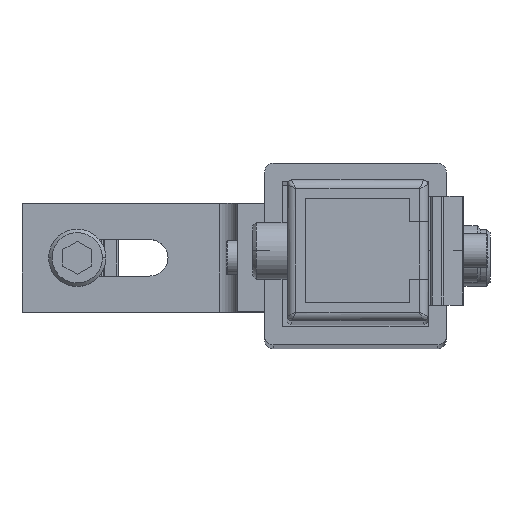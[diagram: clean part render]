
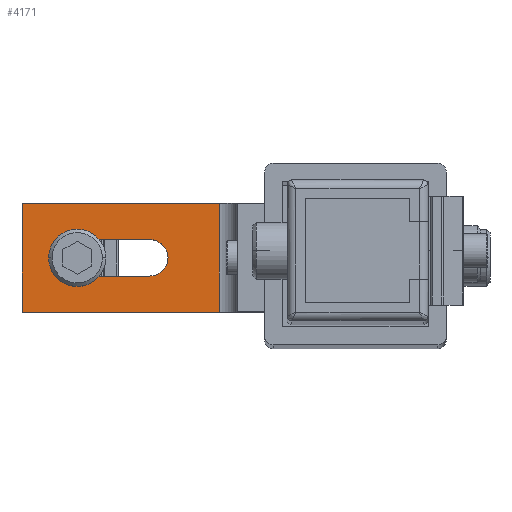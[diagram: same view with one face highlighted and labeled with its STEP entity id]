
A CAD part, top view. The second image highlights one B-rep face of the part: STEP entity #4171.
In plain terms, the highlighted planar face has unit normal (0, 0, 1) as drawn and (-1, 0, 0) by its records, which use the part's own axes.
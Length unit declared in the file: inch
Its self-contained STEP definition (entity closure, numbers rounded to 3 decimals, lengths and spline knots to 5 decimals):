
#3826=DIRECTION('',(0.,1.,0.));
#3827=VECTOR('',#3826,1.3575);
#3828=CARTESIAN_POINT('',(-0.1875,0.3125,-0.375));
#3829=LINE('',#3828,#3827);
#3860=DIRECTION('',(0.,1.,0.));
#3861=VECTOR('',#3860,1.3575);
#3862=CARTESIAN_POINT('',(-0.1875,0.3125,0.375));
#3863=LINE('',#3862,#3861);
#3864=DIRECTION('',(0.,0.,-1.));
#3865=VECTOR('',#3864,0.75);
#3866=CARTESIAN_POINT('',(-0.1875,0.3125,0.375));
#3867=LINE('',#3866,#3865);
#3868=DIRECTION('',(0.,-1.,0.));
#3869=VECTOR('',#3868,0.5);
#3870=CARTESIAN_POINT('',(-0.1875,1.29,0.125));
#3871=LINE('',#3870,#3869);
#3872=CARTESIAN_POINT('',(-0.1875,1.29,0.));
#3873=DIRECTION('',(-1.,0.,0.));
#3874=DIRECTION('',(0.,0.,1.));
#3875=AXIS2_PLACEMENT_3D('',#3872,#3873,#3874);
#3877=DIRECTION('',(0.,1.,0.));
#3878=VECTOR('',#3877,0.5);
#3879=CARTESIAN_POINT('',(-0.1875,0.79,-0.125));
#3880=LINE('',#3879,#3878);
#3881=CARTESIAN_POINT('',(-0.1875,0.79,0.));
#3882=DIRECTION('',(-1.,0.,0.));
#3883=DIRECTION('',(0.,0.,-1.));
#3884=AXIS2_PLACEMENT_3D('',#3881,#3882,#3883);
#3924=DIRECTION('',(0.,0.,-1.));
#3925=VECTOR('',#3924,0.75);
#3926=CARTESIAN_POINT('',(-0.1875,1.67,0.375));
#3927=LINE('',#3926,#3925);
#3964=CARTESIAN_POINT('',(-0.1875,0.3125,0.375));
#3965=VERTEX_POINT('',#3964);
#3966=CARTESIAN_POINT('',(-0.1875,1.67,0.375));
#3967=VERTEX_POINT('',#3966);
#3972=CARTESIAN_POINT('',(-0.1875,0.3125,-0.375));
#3973=VERTEX_POINT('',#3972);
#3974=CARTESIAN_POINT('',(-0.1875,1.67,-0.375));
#3975=VERTEX_POINT('',#3974);
#3976=CARTESIAN_POINT('',(-0.1875,1.29,0.125));
#3977=CARTESIAN_POINT('',(-0.1875,0.79,0.125));
#3978=VERTEX_POINT('',#3976);
#3979=VERTEX_POINT('',#3977);
#3980=CARTESIAN_POINT('',(-0.1875,0.79,-0.125));
#3981=VERTEX_POINT('',#3980);
#3982=CARTESIAN_POINT('',(-0.1875,1.29,-0.125));
#3983=VERTEX_POINT('',#3982);
#4148=CARTESIAN_POINT('',(-0.1875,0.3125,0.375));
#4149=DIRECTION('',(1.,0.,0.));
#4150=DIRECTION('',(0.,1.,0.));
#4151=AXIS2_PLACEMENT_3D('',#4148,#4149,#4150);
#4152=PLANE('',#4151);
#4153=ORIENTED_EDGE('',*,*,#4141,.F.);
#4155=ORIENTED_EDGE('',*,*,#4154,.T.);
#4156=ORIENTED_EDGE('',*,*,#4104,.T.);
#4158=ORIENTED_EDGE('',*,*,#4157,.F.);
#4159=EDGE_LOOP('',(#4153,#4155,#4156,#4158));
#4160=FACE_OUTER_BOUND('',#4159,.F.);
#4162=ORIENTED_EDGE('',*,*,#4161,.F.);
#4164=ORIENTED_EDGE('',*,*,#4163,.T.);
#4166=ORIENTED_EDGE('',*,*,#4165,.F.);
#4168=ORIENTED_EDGE('',*,*,#4167,.T.);
#4169=EDGE_LOOP('',(#4162,#4164,#4166,#4168));
#4170=FACE_BOUND('',#4169,.F.);
#3876=CIRCLE('',#3875,0.125);
#3885=CIRCLE('',#3884,0.125);
#4104=EDGE_CURVE('',#3973,#3975,#3829,.T.);
#4141=EDGE_CURVE('',#3965,#3967,#3863,.T.);
#4154=EDGE_CURVE('',#3965,#3973,#3867,.T.);
#4157=EDGE_CURVE('',#3967,#3975,#3927,.T.);
#4161=EDGE_CURVE('',#3978,#3979,#3871,.T.);
#4163=EDGE_CURVE('',#3978,#3983,#3876,.T.);
#4165=EDGE_CURVE('',#3981,#3983,#3880,.T.);
#4167=EDGE_CURVE('',#3981,#3979,#3885,.T.);
#4171=ADVANCED_FACE('',(#4160,#4170),#4152,.F.);
